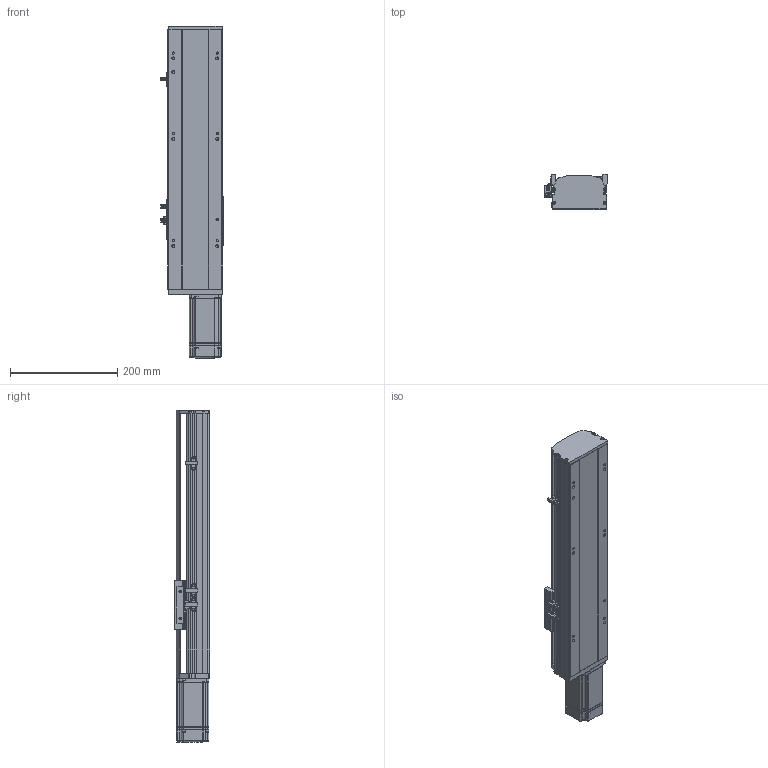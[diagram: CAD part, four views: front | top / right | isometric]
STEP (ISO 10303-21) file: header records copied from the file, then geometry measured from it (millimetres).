
FILE_DESCRIPTION (( 'STEP AP214' ), '1' );
FILE_NAME ('QTH10-250-BC-P20.STEP', '2021-11-13T14:19:06', ( '' ), ( '' ), 'SwSTEP 2.0', 'SolidWorks 2020', '' );
FILE_SCHEMA (( 'AUTOMOTIVE_DESIGN' ));
Length unit declared in the file: millimetre
Products named in the file (6): QTH10-250-BC-P20; 葩璃 pm-t65-672^QTH10-BC-P20; 葩璃 QTH10-BC-002 奻裔MZ-102A-02^QTH10-BC-P20; 葩璃 侂狟400W^QTH10-BC-P20; 葩璃 QTH10-BC-005 賑釱MZ-102A-03 ^QTH10-BC-P20; 葩璃 QTH10-BC-001 菁釱MZ-102A-01^QTH10-BC-P20
Assembly tree (7 placements, depth 2):
  QTH10-250-BC-P20
    葩璃 QTH10-BC-001 菁釱MZ-102A-01^QTH10-BC-P20
    葩璃 QTH10-BC-002 奻裔MZ-102A-02^QTH10-BC-P20
    葩璃 QTH10-BC-005 賑釱MZ-102A-03 ^QTH10-BC-P20
    葩璃 pm-t65-672^QTH10-BC-P20  x3
    葩璃 侂狟400W^QTH10-BC-P20
Bounding box: 117.2 x 66 x 619 mm (x, y, z)
Volume: 1579610.1 mm3; surface area: 372350.2 mm2
Topology: 11 solids, 11 shells, 1173 faces, 3156 edges, 2060 vertices
Faces by surface type: plane 708, cylinder 387, cone 60, bspline 18
Entity records: 31183 total; most frequent: CARTESIAN_POINT 5759, DIRECTION 5151, ORIENTED_EDGE 4968, EDGE_CURVE 2484, AXIS2_PLACEMENT_3D 1764, VERTEX_POINT 1636, VECTOR 1623, LINE 1623
